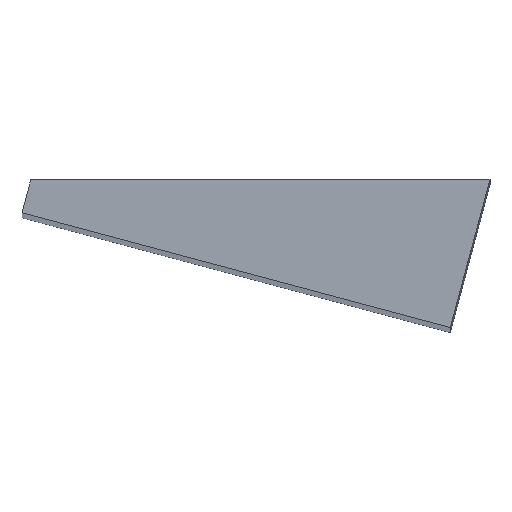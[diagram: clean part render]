
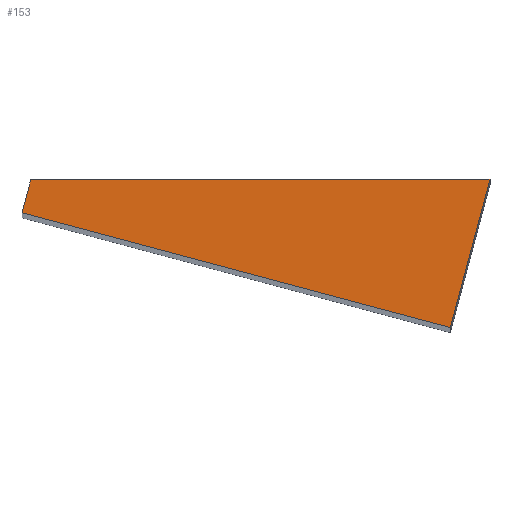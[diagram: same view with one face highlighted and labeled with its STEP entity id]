
A CAD part, top view. The second image highlights one B-rep face of the part: STEP entity #153.
In plain terms, the highlighted planar face has unit normal (0, 0, 1).
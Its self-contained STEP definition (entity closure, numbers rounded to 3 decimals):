
#24 = VERTEX_POINT('',#25);
#25 = CARTESIAN_POINT('',(27.511,-7.371,100.));
#31 = EDGE_CURVE('',#24,#32,#34,.T.);
#32 = VERTEX_POINT('',#33);
#33 = CARTESIAN_POINT('',(27.769,-6.406,100.));
#34 = LINE('',#35,#36);
#35 = CARTESIAN_POINT('',(27.511,-7.371,100.));
#36 = VECTOR('',#37,1.);
#37 = DIRECTION('',(0.259,0.966,0.));
#62 = EDGE_CURVE('',#32,#63,#65,.T.);
#63 = VERTEX_POINT('',#64);
#64 = CARTESIAN_POINT('',(41.232,-6.389,100.));
#65 = LINE('',#66,#67);
#66 = CARTESIAN_POINT('',(27.769,-6.406,100.));
#67 = VECTOR('',#68,1.);
#68 = DIRECTION('',(1.,0.001,0.));
#93 = EDGE_CURVE('',#63,#94,#96,.T.);
#94 = VERTEX_POINT('',#95);
#95 = CARTESIAN_POINT('',(40.068,-10.736,100.));
#96 = LINE('',#97,#98);
#97 = CARTESIAN_POINT('',(41.232,-6.389,100.));
#98 = VECTOR('',#99,1.);
#99 = DIRECTION('',(-0.259,-0.966,0.));
#124 = EDGE_CURVE('',#94,#24,#125,.T.);
#125 = LINE('',#126,#127);
#126 = CARTESIAN_POINT('',(40.068,-10.736,100.));
#127 = VECTOR('',#128,1.);
#128 = DIRECTION('',(-0.966,0.259,0.));
#153 = ADVANCED_FACE('',(#154),#160,.F.);
#154 = FACE_BOUND('',#155,.F.);
#155 = EDGE_LOOP('',(#156,#157,#158,#159));
#156 = ORIENTED_EDGE('',*,*,#31,.T.);
#157 = ORIENTED_EDGE('',*,*,#62,.T.);
#158 = ORIENTED_EDGE('',*,*,#93,.T.);
#159 = ORIENTED_EDGE('',*,*,#124,.T.);
#160 = PLANE('',#161);
#161 = AXIS2_PLACEMENT_3D('',#162,#163,#164);
#162 = CARTESIAN_POINT('',(34.863,-7.798,100.));
#163 = DIRECTION('',(-0.,-0.,-1.));
#164 = DIRECTION('',(-1.,0.,0.));
